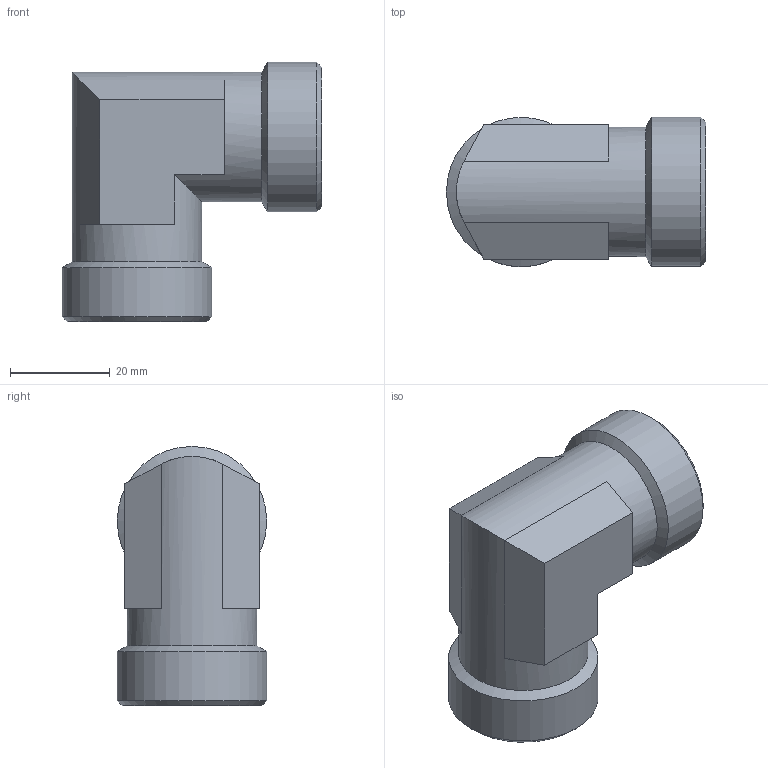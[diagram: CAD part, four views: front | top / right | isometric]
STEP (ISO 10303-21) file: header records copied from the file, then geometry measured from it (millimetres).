
FILE_DESCRIPTION( ( 'Unknown' ), '1' );
FILE_NAME( 'C:/Users/p.nanko/Desktop/3D SR/XW20S.stp', 'Unknown', ( 'Peter Nanko' ), ( 'Armaturen Arndt' ), 'PSStep 14.0', 'Solid Edge ST4', ' ' );
FILE_SCHEMA( ( 'AUTOMOTIVE_DESIGN { 1 0 10303 214 1 1 1 1 }' ) );
Length unit declared in the file: millimetre
Products named in the file (1): 1
Bounding box: 52 x 30 x 52 mm (x, y, z)
Volume: 26594.6 mm3; surface area: 11872.3 mm2
Topology: 1 solids, 1 shells, 38 faces, 82 edges, 48 vertices
Faces by surface type: plane 20, cylinder 12, cone 6
Full cylindrical faces by diameter (mm): 16 x2, 20 x2, 26 x2, 30 x2
Entity records: 1246 total; most frequent: DIRECTION 176, CARTESIAN_POINT 149, ORIENTED_EDGE 130, AXIS2_PLACEMENT_3D 72, EDGE_CURVE 65, EDGE_LOOP 56, FACE_OUTER_BOUND 46, VERTEX_POINT 45
